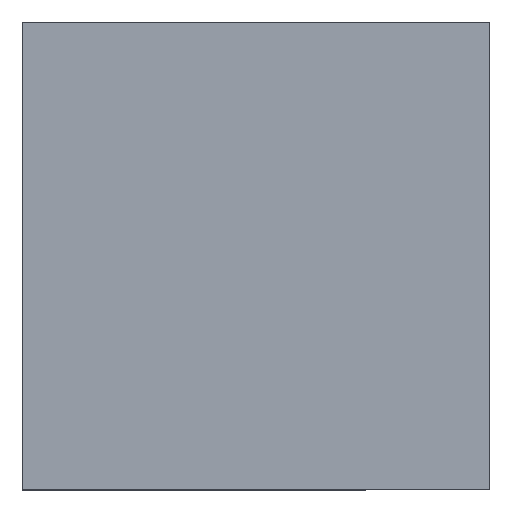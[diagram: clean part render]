
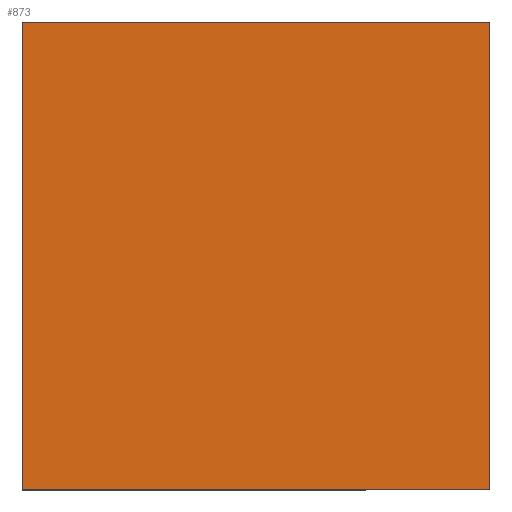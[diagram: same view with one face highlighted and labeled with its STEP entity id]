
A CAD part, top view. The second image highlights one B-rep face of the part: STEP entity #873.
In plain terms, the highlighted planar face has unit normal (0, 0, 1).
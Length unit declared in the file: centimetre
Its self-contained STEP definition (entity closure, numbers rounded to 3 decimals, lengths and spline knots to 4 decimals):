
#36 = VECTOR ( 'NONE', #43, 100. ) ;
#43 = DIRECTION ( 'NONE',  ( 1., 0., 0. ) ) ;
#84 = LINE ( 'NONE', #710, #455 ) ;
#103 = EDGE_CURVE ( 'NONE', #708, #931, #128, .T. ) ;
#112 = EDGE_CURVE ( 'NONE', #457, #708, #535, .T. ) ;
#128 = LINE ( 'NONE', #353, #717 ) ;
#155 = DIRECTION ( 'NONE',  ( 0., 1., 0. ) ) ;
#231 = EDGE_CURVE ( 'NONE', #406, #457, #84, .T. ) ;
#271 = CARTESIAN_POINT ( 'NONE',  ( 1000., 1000., 1000. ) ) ;
#276 = CARTESIAN_POINT ( 'NONE',  ( 0., 1000., 1000. ) ) ;
#323 = PLANE ( 'NONE',  #785 ) ;
#353 = CARTESIAN_POINT ( 'NONE',  ( 0., 1000., 1000. ) ) ;
#369 = DIRECTION ( 'NONE',  ( 0., -1., 0. ) ) ;
#406 = VERTEX_POINT ( 'NONE', #965 ) ;
#411 = ORIENTED_EDGE ( 'NONE', *, *, #231, .T. ) ;
#414 = DIRECTION ( 'NONE',  ( 0., 0., 1. ) ) ;
#455 = VECTOR ( 'NONE', #155, 100. ) ;
#457 = VERTEX_POINT ( 'NONE', #271 ) ;
#481 = FACE_OUTER_BOUND ( 'NONE', #770, .T. ) ;
#491 = CARTESIAN_POINT ( 'NONE',  ( 0., 0., 1000. ) ) ;
#535 = LINE ( 'NONE', #908, #862 ) ;
#557 = DIRECTION ( 'NONE',  ( 1., 0., 0. ) ) ;
#617 = EDGE_CURVE ( 'NONE', #931, #406, #879, .T. ) ;
#708 = VERTEX_POINT ( 'NONE', #276 ) ;
#710 = CARTESIAN_POINT ( 'NONE',  ( 1000., 1000., 1000. ) ) ;
#717 = VECTOR ( 'NONE', #369, 100. ) ;
#770 = EDGE_LOOP ( 'NONE', ( #976, #875, #411, #910 ) ) ;
#785 = AXIS2_PLACEMENT_3D ( 'NONE', #798, #414, #557 ) ;
#798 = CARTESIAN_POINT ( 'NONE',  ( 0., 0., 1000. ) ) ;
#862 = VECTOR ( 'NONE', #897, 100. ) ;
#873 = ADVANCED_FACE ( 'NONE', ( #481 ), #323, .T. ) ;
#875 = ORIENTED_EDGE ( 'NONE', *, *, #617, .T. ) ;
#879 = LINE ( 'NONE', #907, #36 ) ;
#897 = DIRECTION ( 'NONE',  ( -1., 0., 0. ) ) ;
#907 = CARTESIAN_POINT ( 'NONE',  ( 0., 0., 1000. ) ) ;
#908 = CARTESIAN_POINT ( 'NONE',  ( 0., 1000., 1000. ) ) ;
#910 = ORIENTED_EDGE ( 'NONE', *, *, #112, .T. ) ;
#931 = VERTEX_POINT ( 'NONE', #491 ) ;
#965 = CARTESIAN_POINT ( 'NONE',  ( 1000., 0., 1000. ) ) ;
#976 = ORIENTED_EDGE ( 'NONE', *, *, #103, .T. ) ;
